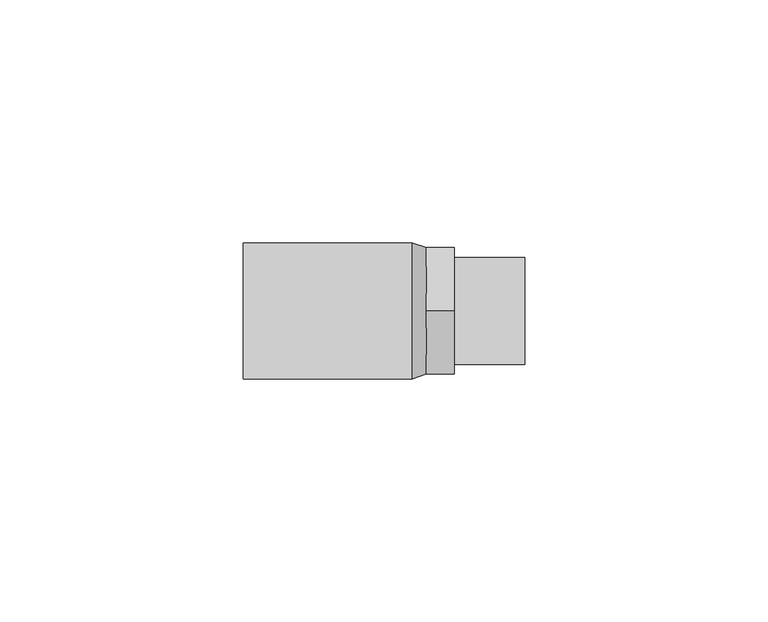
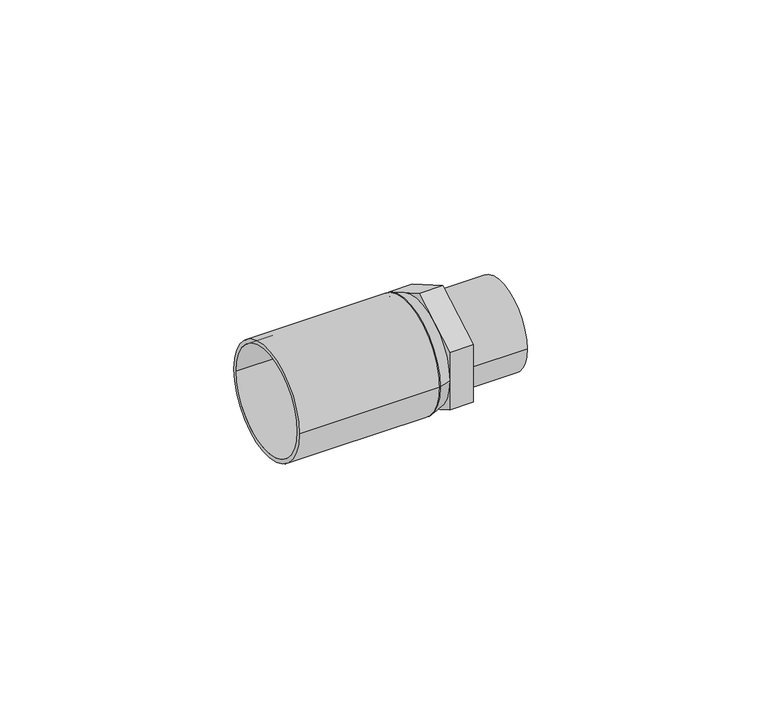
"""IFC4 building model written with IfcOpenShell, lengths in millimetres: pipe fitting geometry, VALTEC_VTi.906.I_Вставка с наружной резьбой нержавеющая сталь : VTi.906.I."""

from ifc_helpers import new_model, si_unit, point, frame, origin, origin_2d, place, context, project, spatial, polyline, circle_curve, trimmed, segment, composite_curve, outline, extrude, source, transform, mapped, element, save
from ifc_brep_helpers import plane_surface, revolved_surface, advanced_brep


def pipe_fitting_686efb11(model_context):
    return source(origin(), model_context, "Body", "SolidModel", [
        extrude(outline(composite_curve([segment(trimmed(circle_curve(origin_2d(), 11.0), [point((-11.0, 0.0))], [point((11.0, 0.0))], False, "CARTESIAN"), True, "CONTINUOUS"), segment(trimmed(circle_curve(origin_2d(), 11.0), [point((11.0, 0.0))], [point((-11.0, 0.0))], False, "CARTESIAN"), True, "CONTINUOUS")], self_intersect=False), holes=[composite_curve([segment(trimmed(circle_curve(origin_2d(), 10.0), [point((-10.0, 0.0))], [point((10.0, 0.0))], True, "CARTESIAN"), True, "CONTINUOUS"), segment(trimmed(circle_curve(origin_2d(), 10.0), [point((10.0, 0.0))], [point((-10.0, 0.0))], True, "CARTESIAN"), True, "CONTINUOUS")], self_intersect=False)]), frame((43.5, 0.0, 0.0), z_axis=(1.0, 0.0, 0.0), x_axis=(0.0, 1.0, 0.0)), (0.0, 0.0, 1.0), 14.5),
        advanced_brep(
        [(37.7, -13.0, 0.0), (37.7, 13.0, 0.0), (34.8, -14.0, 0.0), (34.8, 14.0, 0.0)],
        [
            (0, 1, circle_curve(frame((37.7, 0.0, 0.0), z_axis=(1.0, 0.0, 0.0), x_axis=(0.0, -1.0, 0.0)), 13.0)),
            (1, 0, circle_curve(frame((37.7, 0.0, 0.0), z_axis=(1.0, 0.0, 0.0), x_axis=(0.0, 1.0, 0.0)), 13.0)),
            (2, 3, circle_curve(frame((34.8, 0.0, 0.0), z_axis=(-1.0, 0.0, 0.0), x_axis=(0.0, 1.0, 0.0)), 14.0)),
            (3, 2, circle_curve(frame((34.8, 0.0, 0.0), z_axis=(-1.0, 0.0, 0.0), x_axis=(0.0, -1.0, 0.0)), 14.0)),
            (3, 1),
            (0, 2),
        ],
        [
            plane_surface(frame((37.7, 0.0, 0.0), z_axis=(1.0, 0.0, 0.0), x_axis=(0.0, 0.0, -1.0))),
            plane_surface(frame((34.8, 0.0, 0.0), z_axis=(-1.0, 0.0, 0.0), x_axis=(0.0, 0.0, -1.0))),
            revolved_surface(polyline([(37.7, -12.999999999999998, 0.0), (34.8, -14.0, 0.0)]), (75.4, 0.0, 0.0), (-1.0, 0.0, 0.0)),
            revolved_surface(polyline([(37.7, 12.999999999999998, 0.0), (34.8, 14.0, 0.0)]), (75.4, 0.0, 0.0), (-1.0, 0.0, 0.0)),
        ],
        [
            (0, [[1, 2]]),
            (1, [[3, 4]]),
            (2, [[-4, 5, -1, 6]]),
            (3, [[-3, -6, -2, -5]]),
        ],
    ),
        extrude(outline(polyline([(0.0, 15.011107), (13.0, 7.5055535), (13.0, -7.5055535), (0.0, -15.011107), (-13.0, -7.5055535), (-13.0, 7.5055535), (0.0, 15.011107)]), holes=[composite_curve([segment(trimmed(circle_curve(origin_2d(), 10.0), [point((-10.0, 0.0))], [point((10.0, 0.0))], True, "CARTESIAN"), True, "CONTINUOUS"), segment(trimmed(circle_curve(origin_2d(), 10.0), [point((10.0, 0.0))], [point((-10.0, 0.0))], True, "CARTESIAN"), True, "CONTINUOUS")], self_intersect=False)]), frame((37.7, 0.0, 0.0), z_axis=(1.0, 0.0, 0.0), x_axis=(0.0, 1.0, 0.0)), (0.0, 0.0, 1.0), 5.8),
        extrude(outline(composite_curve([segment(trimmed(circle_curve(origin_2d(), 14.0), [point((-14.0, 0.0))], [point((14.0, 0.0))], False, "CARTESIAN"), True, "CONTINUOUS"), segment(trimmed(circle_curve(origin_2d(), 14.0), [point((14.0, 0.0))], [point((-14.0, 0.0))], False, "CARTESIAN"), True, "CONTINUOUS")], self_intersect=False), holes=[composite_curve([segment(trimmed(circle_curve(origin_2d(), 13.0), [point((-13.0, 0.0))], [point((13.0, 0.0))], True, "CARTESIAN"), True, "CONTINUOUS"), segment(trimmed(circle_curve(origin_2d(), 13.0), [point((13.0, 0.0))], [point((-13.0, 0.0))], True, "CARTESIAN"), True, "CONTINUOUS")], self_intersect=False)]), frame((0.0, 0.0, 0.0), z_axis=(1.0, 0.0, 0.0), x_axis=(0.0, 1.0, 0.0)), (0.0, 0.0, 1.0), 34.8),
    ])


if __name__ == "__main__":
    model = new_model("IFC4")
    model_context = context("Model", 3, world=origin())
    ifc_project = project(units=[si_unit("LENGTHUNIT", "METRE", prefix="MILLI")], contexts=[model_context])
    site = spatial("IfcSite", under=ifc_project)
    building = spatial("IfcBuilding", under=site)
    placement = place(None, origin())
    pipe_fitting_shape = pipe_fitting_686efb11(model_context)
    element("IfcPipeFitting", 1, ObjectType="VALTEC_VTi.906.I_Вставка с наружной резьбой нержавеющая сталь : VTi.906.I", at=placement, inside=building, context=model_context, shape_type="MappedRepresentation", body=[
        mapped(pipe_fitting_shape, transform((0.0, 0.0, 0.0), x_axis=(1.0, 0.0, 0.0), y_axis=(0.0, 1.0, 0.0), z_axis=(0.0, 0.0, 1.0))),
    ])
    save(model, "model.ifc")
